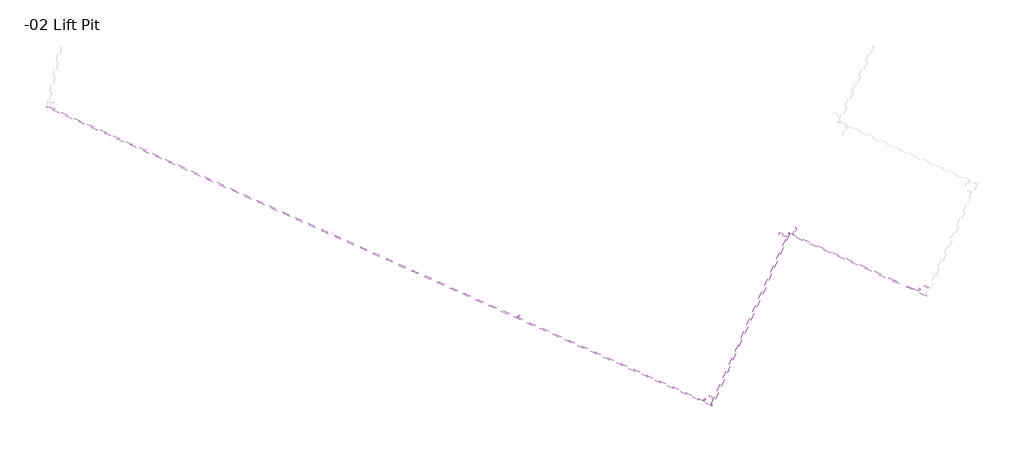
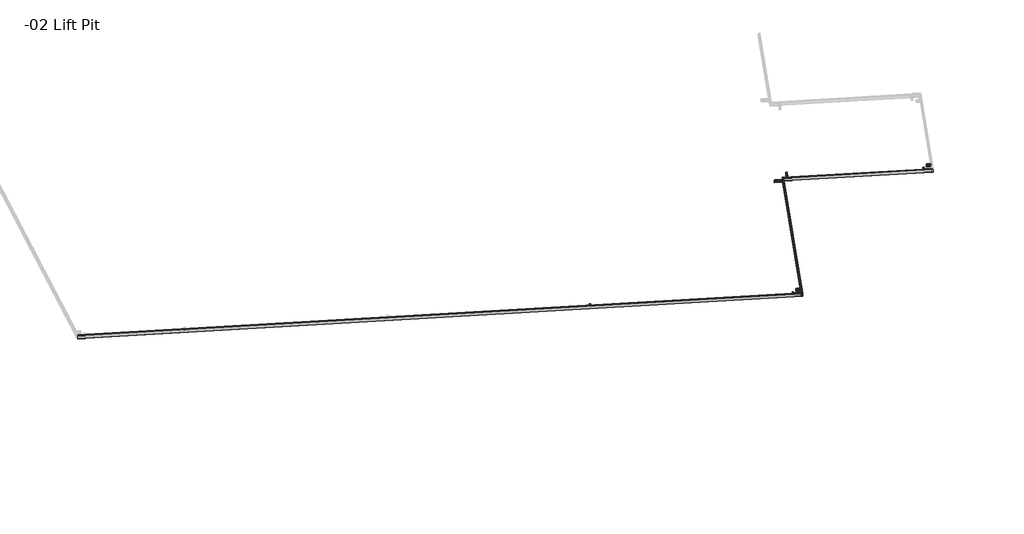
# One storey, part 2 of 3: 10 beams.
"""IFC4 building model written with IfcOpenShell, lengths in millimetres."""

from ifc_helpers import new_model, si_unit, frame, origin, place, context, project, spatial, polyline, ellipse_curve, transform, mapped, element, save
from ifc_brep_helpers import plane_surface, cylinder_surface, revolved_surface, advanced_brep
from components import hss_hollow_structural_section_hss3x2x1_8_9bae5ac0, hss_hollow_structural_section_hss3x2x1_8_4448584e, hss_hollow_structural_section_hss3x2x1_8_ec86c395, hss_hollow_structural_section_hss3x2x1_8_a59be2b4, hss_hollow_structural_section_hss3x2x1_8_24952963

model = new_model("IFC4")

# Units and contexts
model_context = context("Model", 3, world=origin())
ifc_project = project(units=[si_unit("LENGTHUNIT", "METRE", prefix="MILLI")], contexts=[model_context])

# Site, building, storey
site = spatial("IfcSite", under=ifc_project)
building = spatial("IfcBuilding", under=site)
storey = spatial("IfcBuildingStorey", under=building, Name="-02 Lift Pit", Elevation=-2133.6)

# Beams
placement = place(None, origin())
hss_hollow_structural_section_hss3x2x1_8_shape = hss_hollow_structural_section_hss3x2x1_8_9bae5ac0(model_context)
element("IfcBeam", 1, ObjectType="HSS-Hollow Structural Section : HSS3X2X1/8", at=placement, inside=storey, context=model_context, shape_type="MappedRepresentation", body=[
    mapped(hss_hollow_structural_section_hss3x2x1_8_shape, transform((57874.4831972, -20293.602729, 16256.4818369), x_axis=(0.9121951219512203, -0.40975609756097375, 0.0), y_axis=(0.4091945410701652, 0.9109449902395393, 0.052335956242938), z_axis=(-0.021444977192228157, -0.047740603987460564, 0.9986295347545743))),
])
element("IfcBeam", 2, ObjectType="HSS-Hollow Structural Section : HSS3X2X1/8", at=placement, inside=storey, context=model_context, shape_type="MappedRepresentation", body=[
    mapped(hss_hollow_structural_section_hss3x2x1_8_shape, transform((50488.6588069, -24090.2832168, 15916.3710717), x_axis=(0.9121951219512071, -0.4097560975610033, 0.0), y_axis=(0.4091945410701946, 0.910944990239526, 0.052335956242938), z_axis=(-0.021444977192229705, -0.04774060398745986, 0.9986295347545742))),
])
hss_hollow_structural_section_hss3x2x1_8_2_shape = hss_hollow_structural_section_hss3x2x1_8_4448584e(model_context)
element("IfcBeam", 3, ObjectType="HSS-Hollow Structural Section : HSS3X2X1/8", at=placement, inside=storey, context=model_context, shape_type="MappedRepresentation", body=[
    mapped(hss_hollow_structural_section_hss3x2x1_8_2_shape, transform((52986.4238112, -18529.7825525, 16235.8350597), x_axis=(0.9121951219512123, -0.4097560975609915, 0.0), y_axis=(0.4091945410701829, 0.9109449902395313, 0.052335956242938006), z_axis=(-0.021444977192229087, -0.04774060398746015, 0.9986295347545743))),
])
hss_hollow_structural_section_hss3x2x1_8_3_shape = hss_hollow_structural_section_hss3x2x1_8_ec86c395(model_context)
element("IfcBeam", 4, ObjectType="HSS-Hollow Structural Section : HSS3X2X1/8", at=placement, inside=storey, context=model_context, shape_type="MappedRepresentation", body=[
    mapped(hss_hollow_structural_section_hss3x2x1_8_3_shape, transform((57680.7339429, -20352.9969021, 16249.4817815), x_axis=(-0.40919454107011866, -0.9109449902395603, -0.052335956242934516), y_axis=(0.9121951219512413, -0.4097560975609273, 0.0), z_axis=(-0.021444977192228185, -0.047740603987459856, 0.9986295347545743))),
])
hss_hollow_structural_section_hss3x2x1_8_4_shape = hss_hollow_structural_section_hss3x2x1_8_a59be2b4(model_context)
element("IfcBeam", 5, ObjectType="HSS-Hollow Structural Section : HSS3X2X1/8", at=placement, inside=storey, context=model_context, shape_type="MappedRepresentation", body=[
    mapped(hss_hollow_structural_section_hss3x2x1_8_4_shape, transform((53373.5930685, -18411.7271821, 16249.7930592), x_axis=(0.40919454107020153, 0.9109449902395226, 0.05233595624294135), y_axis=(-0.9121951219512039, 0.4097560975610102, 0.0), z_axis=(-0.0214449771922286, -0.04774060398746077, 0.9986295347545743))),
])
hss_hollow_structural_section_hss3x2x1_8_5_shape = hss_hollow_structural_section_hss3x2x1_8_24952963(model_context)
element("IfcBeam", 6, ObjectType="HSS-Hollow Structural Section : HSS3X2X1/8", at=placement, inside=storey, context=model_context, shape_type="MappedRepresentation", body=[
    mapped(hss_hollow_structural_section_hss3x2x1_8_5_shape, transform((50298.5513886, -24141.5699695, 15909.8368069), x_axis=(-0.4091945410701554, -0.9109449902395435, -0.052335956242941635), y_axis=(0.9121951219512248, -0.40975609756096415, 0.0), z_axis=(-0.021444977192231, -0.047740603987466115, 0.9986295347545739))),
])
element("IfcBeam", 7, ObjectType="HSS-Hollow Structural Section : HSS3X2X1/8", at=placement, inside=storey, context=model_context, shape_type="MappedRepresentation", body=[
    mapped(hss_hollow_structural_section_hss3x2x1_8_5_shape, transform((43903.6987057, -21269.0158231, 15909.8368069), x_axis=(-0.40919454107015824, -0.9109449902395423, -0.05233595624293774), y_axis=(0.9121951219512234, -0.4097560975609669, 0.0), z_axis=(-0.021444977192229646, -0.04774060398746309, 0.998629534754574))),
])
element("IfcBeam", 8, ObjectType="HSS-Hollow Structural Section : HSS5X2X1/8", at=placement, inside=storey, context=model_context, shape_type="AdvancedBrep", body=[
    advanced_brep(
    [(53186.4051338, -18504.1214652, 16279.5085835), (53189.4955866, -18511.6227668, 16273.315454), (57916.1258305, -20634.8149619, 16273.315454), (57913.0353778, -20627.3136604, 16279.5085835), (53166.780868, -18452.5951047, 16281.5504394), (57893.4111119, -20575.7872998, 16281.5504394), (53163.9431571, -18444.5311515, 16275.9741206), (57890.573401, -20567.7233466, 16275.9741206), (53166.4139273, -18439.0307465, 16160.9176179), (57893.0441712, -20562.2229416, 16160.9176179), (53169.5043801, -18446.532048, 16154.7244885), (57896.134624, -20569.7242431, 16154.7244885), (53189.128646, -18498.0584085, 16152.6826325), (57915.7588899, -20621.2506036, 16152.6826325), (53191.9663568, -18506.1223617, 16158.2589513), (57918.5966007, -20629.3145568, 16158.2589513), (53186.4683193, -18503.9808023, 16276.5662214), (53166.8440535, -18452.4544418, 16278.6080773), (57893.4742974, -20575.6466369, 16278.6080773), (57913.0985632, -20627.1729974, 16276.5662214), (53188.0135457, -18507.7314531, 16273.4696567), (57914.6437896, -20630.9236482, 16273.4696567), (53190.4843159, -18502.231048, 16158.413154), (57917.1145598, -20625.4232432, 16158.413154), (53189.0654605, -18498.1990714, 16155.6249946), (57915.6957044, -20621.3912666, 16155.6249946), (53169.4411946, -18446.6727109, 16157.6668505), (57896.0714385, -20569.864906, 16157.6668505), (53167.8959682, -18442.9220602, 16160.7634153), (57894.5262121, -20566.1142553, 16160.7634153), (53165.425198, -18448.4224652, 16275.8199179), (57892.0554419, -20571.6146603, 16275.8199179)],
    [
        (0, 1, ellipse_curve(frame((53186.5315048, -18503.8401394, 16273.6238593), z_axis=(0.9343635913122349, 0.354394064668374, 0.037007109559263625), x_axis=(-0.3556751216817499, 0.9338766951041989, 0.03700710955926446)), 8.3336777, 5.8928)),
        (1, 2),
        (2, 3, ellipse_curve(frame((57913.1617487, -20627.0323345, 16273.6238593), z_axis=(-0.9343635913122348, -0.354394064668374, -0.03700710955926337), x_axis=(-0.3556751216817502, 0.9338766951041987, 0.03700710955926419)), 8.3336777, 5.8928)),
        (3, 0),
        (4, 0),
        (3, 5),
        (5, 4),
        (6, 4, ellipse_curve(frame((53166.9072389, -18452.3137789, 16275.6657153), z_axis=(0.9343635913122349, 0.354394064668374, 0.037007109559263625), x_axis=(-0.3556751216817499, 0.9338766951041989, 0.03700710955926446)), 8.3336777, 5.8928)),
        (5, 7, ellipse_curve(frame((57893.5374829, -20575.505974, 16275.6657153), z_axis=(-0.9343635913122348, -0.354394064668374, -0.03700710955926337), x_axis=(-0.3556751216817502, 0.9338766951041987, 0.03700710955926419)), 8.3336777, 5.8928)),
        (7, 6),
        (8, 6),
        (7, 9),
        (9, 8),
        (10, 8, ellipse_curve(frame((53169.3780091, -18446.8133738, 16160.6092126), z_axis=(0.9343635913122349, 0.354394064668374, 0.037007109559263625), x_axis=(-0.3556751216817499, 0.9338766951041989, 0.03700710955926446)), 8.3336777, 5.8928)),
        (9, 11, ellipse_curve(frame((57896.008253, -20570.005569, 16160.6092126), z_axis=(-0.9343635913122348, -0.354394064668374, -0.03700710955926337), x_axis=(-0.3556751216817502, 0.9338766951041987, 0.03700710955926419)), 8.3336777, 5.8928)),
        (11, 10),
        (12, 10),
        (11, 13),
        (13, 12),
        (14, 12, ellipse_curve(frame((53189.002275, -18498.3397344, 16158.5673567), z_axis=(0.9343635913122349, 0.354394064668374, 0.037007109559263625), x_axis=(-0.3556751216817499, 0.9338766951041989, 0.03700710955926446)), 8.3336777, 5.8928)),
        (13, 15, ellipse_curve(frame((57915.6325189, -20621.5319295, 16158.5673567), z_axis=(-0.9343635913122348, -0.354394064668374, -0.03700710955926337), x_axis=(-0.3556751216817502, 0.9338766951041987, 0.03700710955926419)), 8.3336777, 5.8928)),
        (15, 14),
        (1, 14),
        (15, 2),
        (16, 17),
        (17, 18),
        (18, 19),
        (19, 16),
        (20, 16, ellipse_curve(frame((53186.5315048, -18503.8401394, 16273.6238593), z_axis=(-0.9343635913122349, -0.354394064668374, -0.037007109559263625), x_axis=(0.3556751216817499, -0.9338766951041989, -0.03700710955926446)), 4.1668388, 2.9464)),
        (19, 21, ellipse_curve(frame((57913.1617487, -20627.0323345, 16273.6238593), z_axis=(0.9343635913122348, 0.354394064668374, 0.03700710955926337), x_axis=(0.3556751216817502, -0.9338766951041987, -0.03700710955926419)), 4.1668388, 2.9464)),
        (21, 20),
        (22, 20),
        (21, 23),
        (23, 22),
        (24, 22, ellipse_curve(frame((53189.002275, -18498.3397344, 16158.5673567), z_axis=(-0.9343635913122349, -0.354394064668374, -0.037007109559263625), x_axis=(0.3556751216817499, -0.9338766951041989, -0.03700710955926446)), 4.1668388, 2.9464)),
        (23, 25, ellipse_curve(frame((57915.6325189, -20621.5319295, 16158.5673567), z_axis=(0.9343635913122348, 0.354394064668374, 0.03700710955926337), x_axis=(0.3556751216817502, -0.9338766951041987, -0.03700710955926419)), 4.1668388, 2.9464)),
        (25, 24),
        (26, 24),
        (25, 27),
        (27, 26),
        (28, 26, ellipse_curve(frame((53169.3780091, -18446.8133738, 16160.6092126), z_axis=(-0.9343635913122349, -0.354394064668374, -0.037007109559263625), x_axis=(0.3556751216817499, -0.9338766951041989, -0.03700710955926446)), 4.1668388, 2.9464)),
        (27, 29, ellipse_curve(frame((57896.008253, -20570.005569, 16160.6092126), z_axis=(0.9343635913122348, 0.354394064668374, 0.03700710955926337), x_axis=(0.3556751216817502, -0.9338766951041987, -0.03700710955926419)), 4.1668388, 2.9464)),
        (29, 28),
        (30, 28),
        (29, 31),
        (31, 30),
        (17, 30, ellipse_curve(frame((53166.9072389, -18452.3137789, 16275.6657153), z_axis=(-0.9343635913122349, -0.354394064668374, -0.037007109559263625), x_axis=(0.3556751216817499, -0.9338766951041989, -0.03700710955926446)), 4.1668388, 2.9464)),
        (31, 18, ellipse_curve(frame((57893.5374829, -20575.505974, 16275.6657153), z_axis=(0.9343635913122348, 0.354394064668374, 0.03700710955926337), x_axis=(0.3556751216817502, -0.9338766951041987, -0.03700710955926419)), 4.1668388, 2.9464)),
    ],
    [
        cylinder_surface(frame((53168.7371321, -18495.8469453, 16273.6238593), z_axis=(-0.9121951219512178, 0.4097560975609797, 0.0), x_axis=(0.4091945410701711, 0.9109449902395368, 0.052335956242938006)), 5.8928),
        plane_surface(frame((53168.6107612, -18496.1282711, 16279.5085835), z_axis=(-0.021444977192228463, -0.04774060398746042, 0.9986295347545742), x_axis=(0.9121951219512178, -0.4097560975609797, 0.0))),
        cylinder_surface(frame((53184.7016116, -18460.306973, 16275.6657153), z_axis=(-0.9121951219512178, 0.4097560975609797, 0.0), x_axis=(0.4091945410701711, 0.9109449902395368, 0.052335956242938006)), 5.8928),
        plane_surface(frame((53187.1129132, -18454.9389564, 16275.9741206), z_axis=(0.4091945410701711, 0.9109449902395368, 0.052335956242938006), x_axis=(0.9121951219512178, -0.4097560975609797, 0.0))),
        cylinder_surface(frame((53187.1723818, -18454.806568, 16160.6092126), z_axis=(-0.9121951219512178, 0.4097560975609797, 0.0), x_axis=(0.4091945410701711, 0.9109449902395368, 0.052335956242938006)), 5.8928),
        plane_surface(frame((53187.2987528, -18454.5252422, 16154.7244885), z_axis=(0.021444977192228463, 0.04774060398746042, -0.9986295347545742), x_axis=(0.9121951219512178, -0.4097560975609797, 0.0))),
        cylinder_surface(frame((53171.2079023, -18490.3465402, 16158.5673567), z_axis=(-0.9121951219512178, 0.4097560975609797, 0.0), x_axis=(0.4091945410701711, 0.9109449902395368, 0.052335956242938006)), 5.8928),
        plane_surface(frame((53168.7966007, -18495.7145568, 16158.2589513), z_axis=(-0.4091945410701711, -0.9109449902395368, -0.052335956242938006), x_axis=(0.9121951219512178, -0.4097560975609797, 0.0))),
        plane_surface(frame((53184.6384262, -18460.4476359, 16278.6080773), z_axis=(0.021444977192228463, 0.04774060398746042, -0.9986295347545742), x_axis=(0.9121951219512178, -0.4097560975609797, 0.0))),
        revolved_surface(polyline([(57917.05509117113, -20625.55563160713, 16273.778061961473), (53185.04946389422, -18499.948825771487, 16273.778061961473)]), (53168.7371321, -18495.8469453, 16273.6238593), (0.9121951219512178, -0.4097560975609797, 0.0)),
        plane_surface(frame((53167.5314813, -18498.5309536, 16273.4696567), z_axis=(0.4091945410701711, 0.9109449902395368, 0.052335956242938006), x_axis=(0.9121951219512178, -0.4097560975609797, 0.0))),
        revolved_surface(polyline([(57919.52586140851, -20620.055226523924, 16158.721559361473), (53187.520234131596, -18494.44842068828, 16158.721559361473)]), (53171.2079023, -18490.3465402, 16158.5673567), (0.9121951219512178, -0.4097560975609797, 0.0)),
        plane_surface(frame((53171.2710878, -18490.2058773, 16155.6249946), z_axis=(-0.021444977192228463, -0.04774060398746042, 0.9986295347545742), x_axis=(0.9121951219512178, -0.4097560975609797, 0.0))),
        revolved_surface(polyline([(57899.9015954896, -20568.528866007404, 16160.763415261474), (53167.89596819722, -18442.922060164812, 16160.763415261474)]), (53187.1723818, -18454.806568, 16160.6092126), (0.9121951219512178, -0.4097560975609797, 0.0)),
        plane_surface(frame((53188.3780326, -18452.1225597, 16160.7634153), z_axis=(-0.4091945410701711, -0.9109449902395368, -0.052335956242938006), x_axis=(0.9121951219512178, -0.4097560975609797, 0.0))),
        revolved_surface(polyline([(57897.43082537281, -20574.029271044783, 16275.819917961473), (53165.42519801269, -18448.42246517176, 16275.819917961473)]), (53184.7016116, -18460.306973, 16275.6657153), (0.9121951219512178, -0.4097560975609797, 0.0)),
        plane_surface(frame((57888.8129228, -20571.6425065, 16357.9544153), z_axis=(0.934363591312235, 0.35439406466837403, 0.037007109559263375), x_axis=(0.3563210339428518, -0.9293105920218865, -0.09704197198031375))),
        plane_surface(frame((53187.7351084, -18515.5419266, 16355.2957487), z_axis=(-0.9343635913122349, -0.354394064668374, -0.037007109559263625), x_axis=(0.35632103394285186, -0.9293105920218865, -0.09704197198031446))),
    ],
    [
        (0, [[1, 2, 3, 4]]),
        (1, [[5, -4, 6, 7]]),
        (2, [[8, -7, 9, 10]]),
        (3, [[11, -10, 12, 13]]),
        (4, [[14, -13, 15, 16]]),
        (5, [[17, -16, 18, 19]]),
        (6, [[20, -19, 21, 22]]),
        (7, [[23, -22, 24, -2]]),
        (8, [[25, 26, 27, 28]]),
        (9, [[29, -28, 30, 31]]),
        (10, [[32, -31, 33, 34]]),
        (11, [[35, -34, 36, 37]]),
        (12, [[38, -37, 39, 40]]),
        (13, [[41, -40, 42, 43]]),
        (14, [[44, -43, 45, 46]]),
        (15, [[47, -46, 48, -26]]),
        (16, [[-24, -21, -18, -15, -12, -9, -6, -3], [-48, -45, -42, -39, -36, -33, -30, -27]]),
        (17, [[-1, -5, -8, -11, -14, -17, -20, -23], [-25, -29, -32, -35, -38, -41, -44, -47]]),
    ],
),
])
element("IfcBeam", 9, ObjectType="HSS-Hollow Structural Section : HSS5X2X1/8", at=placement, inside=storey, context=model_context, shape_type="AdvancedBrep", body=[
    advanced_brep(
    [(50534.4946594, -24407.7793072, 15940.3293994), (50537.5851122, -24415.2806087, 15934.13627), (53189.4955866, -18511.6227668, 16273.315454), (53186.4051338, -18504.1214652, 16279.5085835), (50514.8703935, -24356.2529467, 15942.3712554), (53166.780868, -18452.5951047, 16281.5504394), (50512.0326827, -24348.1889935, 15936.7949366), (53163.9431571, -18444.5311515, 16275.9741206), (50514.5034528, -24342.6885884, 15821.7384339), (53166.4139273, -18439.0307465, 16160.9176179), (50517.5939056, -24350.1898899, 15815.5453044), (53169.5043801, -18446.532048, 16154.7244885), (50537.2181715, -24401.7162505, 15813.5034485), (53189.128646, -18498.0584085, 16152.6826325), (50540.0558824, -24409.7802037, 15819.0797673), (53191.9663568, -18506.1223617, 16158.2589513), (50534.5578449, -24407.6386443, 15937.3870374), (50514.933579, -24356.1122837, 15939.4288933), (53166.8440535, -18452.4544418, 16278.6080773), (53186.4683193, -18503.9808023, 16276.5662214), (50536.1030713, -24411.389295, 15934.2904726), (53188.0135457, -18507.7314531, 16273.4696567), (50538.5738414, -24405.88889, 15819.23397), (53190.4843159, -18502.231048, 16158.413154), (50537.154986, -24401.8569134, 15816.4458106), (53189.0654605, -18498.1990714, 16155.6249946), (50517.5307202, -24350.3305529, 15818.4876665), (53169.4411946, -18446.6727109, 16157.6668505), (50515.9854938, -24346.5799021, 15821.5842312), (53167.8959682, -18442.9220602, 16160.7634153), (50513.5147236, -24352.0803071, 15936.6407339), (53165.425198, -18448.4224652, 16275.8199179)],
    [
        (0, 1, ellipse_curve(frame((50534.6210304, -24407.4979813, 15934.4446753), z_axis=(0.9343635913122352, 0.354394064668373, 0.0370071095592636), x_axis=(0.3556751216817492, -0.9338766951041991, -0.037007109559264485)), 8.3336777, 5.8928)),
        (1, 2),
        (2, 3, ellipse_curve(frame((53186.5315048, -18503.8401394, 16273.6238593), z_axis=(-0.9343635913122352, -0.354394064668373, -0.0370071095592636), x_axis=(0.3556751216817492, -0.9338766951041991, -0.037007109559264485)), 8.3336777, 5.8928)),
        (3, 0),
        (4, 0),
        (3, 5),
        (5, 4),
        (6, 4, ellipse_curve(frame((50514.9967645, -24355.9716208, 15936.4865312), z_axis=(0.9343635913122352, 0.354394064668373, 0.0370071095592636), x_axis=(0.3556751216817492, -0.9338766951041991, -0.037007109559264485)), 8.3336777, 5.8928)),
        (5, 7, ellipse_curve(frame((53166.9072389, -18452.3137789, 16275.6657153), z_axis=(-0.9343635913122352, -0.354394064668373, -0.0370071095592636), x_axis=(0.3556751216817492, -0.9338766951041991, -0.037007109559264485)), 8.3336777, 5.8928)),
        (7, 6),
        (8, 6),
        (7, 9),
        (9, 8),
        (10, 8, ellipse_curve(frame((50517.4675347, -24350.4712158, 15821.4300286), z_axis=(0.9343635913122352, 0.354394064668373, 0.0370071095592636), x_axis=(0.3556751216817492, -0.9338766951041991, -0.037007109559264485)), 8.3336777, 5.8928)),
        (9, 11, ellipse_curve(frame((53169.3780091, -18446.8133738, 16160.6092126), z_axis=(-0.9343635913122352, -0.354394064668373, -0.0370071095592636), x_axis=(0.3556751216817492, -0.9338766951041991, -0.037007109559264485)), 8.3336777, 5.8928)),
        (11, 10),
        (12, 10),
        (11, 13),
        (13, 12),
        (14, 12, ellipse_curve(frame((50537.0918005, -24401.9975763, 15819.3881726), z_axis=(0.9343635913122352, 0.354394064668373, 0.0370071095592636), x_axis=(0.3556751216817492, -0.9338766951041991, -0.037007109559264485)), 8.3336777, 5.8928)),
        (13, 15, ellipse_curve(frame((53189.002275, -18498.3397344, 16158.5673567), z_axis=(-0.9343635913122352, -0.354394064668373, -0.0370071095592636), x_axis=(0.3556751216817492, -0.9338766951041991, -0.037007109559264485)), 8.3336777, 5.8928)),
        (15, 14),
        (1, 14),
        (15, 2),
        (16, 17),
        (17, 18),
        (18, 19),
        (19, 16),
        (20, 16, ellipse_curve(frame((50534.6210304, -24407.4979813, 15934.4446753), z_axis=(-0.9343635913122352, -0.354394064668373, -0.0370071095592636), x_axis=(-0.3556751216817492, 0.9338766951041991, 0.037007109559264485)), 4.1668388, 2.9464)),
        (19, 21, ellipse_curve(frame((53186.5315048, -18503.8401394, 16273.6238593), z_axis=(0.9343635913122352, 0.354394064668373, 0.0370071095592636), x_axis=(-0.3556751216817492, 0.9338766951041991, 0.037007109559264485)), 4.1668388, 2.9464)),
        (21, 20),
        (22, 20),
        (21, 23),
        (23, 22),
        (24, 22, ellipse_curve(frame((50537.0918005, -24401.9975763, 15819.3881726), z_axis=(-0.9343635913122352, -0.354394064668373, -0.0370071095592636), x_axis=(-0.3556751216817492, 0.9338766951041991, 0.037007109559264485)), 4.1668388, 2.9464)),
        (23, 25, ellipse_curve(frame((53189.002275, -18498.3397344, 16158.5673567), z_axis=(0.9343635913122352, 0.354394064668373, 0.0370071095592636), x_axis=(-0.3556751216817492, 0.9338766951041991, 0.037007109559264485)), 4.1668388, 2.9464)),
        (25, 24),
        (26, 24),
        (25, 27),
        (27, 26),
        (28, 26, ellipse_curve(frame((50517.4675347, -24350.4712158, 15821.4300286), z_axis=(-0.9343635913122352, -0.354394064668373, -0.0370071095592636), x_axis=(-0.3556751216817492, 0.9338766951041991, 0.037007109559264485)), 4.1668388, 2.9464)),
        (27, 29, ellipse_curve(frame((53169.3780091, -18446.8133738, 16160.6092126), z_axis=(0.9343635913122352, 0.354394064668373, 0.0370071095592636), x_axis=(-0.3556751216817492, 0.9338766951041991, 0.037007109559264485)), 4.1668388, 2.9464)),
        (29, 28),
        (30, 28),
        (29, 31),
        (31, 30),
        (17, 30, ellipse_curve(frame((50514.9967645, -24355.9716208, 15936.4865312), z_axis=(-0.9343635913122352, -0.354394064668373, -0.0370071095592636), x_axis=(-0.3556751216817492, 0.9338766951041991, 0.037007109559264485)), 4.1668388, 2.9464)),
        (31, 18, ellipse_curve(frame((53166.9072389, -18452.3137789, 16275.6657153), z_axis=(0.9343635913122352, 0.354394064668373, 0.0370071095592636), x_axis=(-0.3556751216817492, 0.9338766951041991, 0.037007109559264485)), 4.1668388, 2.9464)),
    ],
    [
        cylinder_surface(frame((50542.6032701, -24389.7279952, 15935.4656033), z_axis=(-0.40919454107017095, -0.9109449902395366, -0.05233595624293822), x_axis=(-0.9121951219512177, 0.4097560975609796, 0.0)), 5.8928),
        plane_surface(frame((50542.4768991, -24390.0093211, 15941.3503274), z_axis=(-0.02144497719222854, -0.04774060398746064, 0.9986295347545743), x_axis=(0.409194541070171, 0.9109449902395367, 0.05233595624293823))),
        cylinder_surface(frame((50507.0145247, -24373.7416069, 15935.4656033), z_axis=(-0.40919454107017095, -0.9109449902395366, -0.05233595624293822), x_axis=(-0.9121951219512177, 0.4097560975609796, 0.0)), 5.8928),
        plane_surface(frame((50501.6391413, -24371.3269962, 15935.4656033), z_axis=(-0.9121951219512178, 0.40975609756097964, 0.0), x_axis=(0.409194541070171, 0.9109449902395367, 0.05233595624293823))),
        cylinder_surface(frame((50509.4852949, -24368.2412019, 15820.4091006), z_axis=(-0.40919454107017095, -0.9109449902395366, -0.05233595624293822), x_axis=(-0.9121951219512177, 0.4097560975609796, 0.0)), 5.8928),
        plane_surface(frame((50509.6116659, -24367.9598761, 15814.5243765), z_axis=(0.02144497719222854, 0.04774060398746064, -0.9986295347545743), x_axis=(0.409194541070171, 0.9109449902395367, 0.05233595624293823))),
        cylinder_surface(frame((50545.0740403, -24384.2275902, 15820.4091006), z_axis=(-0.40919454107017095, -0.9109449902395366, -0.05233595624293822), x_axis=(-0.9121951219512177, 0.4097560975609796, 0.0)), 5.8928),
        plane_surface(frame((50550.4494237, -24386.6422009, 15820.4091006), z_axis=(0.9121951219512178, -0.40975609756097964, 0.0), x_axis=(0.409194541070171, 0.9109449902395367, 0.05233595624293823))),
        plane_surface(frame((50506.9513393, -24373.8822699, 15938.4079653), z_axis=(0.02144497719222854, 0.04774060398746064, -0.9986295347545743), x_axis=(0.409194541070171, 0.9109449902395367, 0.05233595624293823))),
        revolved_surface(polyline([(53185.0494638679, -18499.948825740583, 16273.778062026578), (50530.72768784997, -24408.974684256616, 15934.290472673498)]), (50542.6032701, -24389.7279952, 15935.4656033), (0.40919454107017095, 0.9109449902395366, 0.05233595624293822)),
        plane_surface(frame((50545.2909618, -24390.9353006, 15935.4656033), z_axis=(-0.9121951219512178, 0.40975609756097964, 0.0), x_axis=(0.409194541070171, 0.9109449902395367, 0.05233595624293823))),
        revolved_surface(polyline([(53187.52023407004, -18494.448420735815, 16158.721559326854), (50533.19845803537, -24403.474279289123, 15819.233969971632)]), (50545.0740403, -24384.2275902, 15820.4091006), (0.40919454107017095, 0.9109449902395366, 0.05233595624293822)),
        plane_surface(frame((50545.1372258, -24384.0869273, 15817.4667385), z_axis=(-0.02144497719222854, -0.04774060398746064, 0.9986295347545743), x_axis=(0.409194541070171, 0.9109449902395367, 0.05233595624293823))),
        revolved_surface(polyline([(53167.89596819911, -18442.922060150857, 16160.763415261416), (50513.57419216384, -24351.9479187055, 15821.275825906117)]), (50509.4852949, -24368.2412019, 15820.4091006), (0.40919454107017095, 0.9109449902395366, 0.05233595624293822)),
        plane_surface(frame((50506.7976032, -24367.0338965, 15820.4091006), z_axis=(0.9121951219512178, -0.40975609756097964, 0.0), x_axis=(0.409194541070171, 0.9109449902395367, 0.05233595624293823))),
        revolved_surface(polyline([(53165.425197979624, -18448.422465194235, 16275.819917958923), (50511.10342196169, -24357.44832371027, 15936.332328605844)]), (50507.0145247, -24373.7416069, 15935.4656033), (0.40919454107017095, 0.9109449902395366, 0.05233595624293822)),
        plane_surface(frame((53187.7351084, -18515.5419266, 16355.2957487), z_axis=(0.9343635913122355, 0.35439406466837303, 0.037007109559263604), x_axis=(0.35632103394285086, -0.9293105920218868, -0.09704197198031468))),
        plane_surface(frame((50510.2722044, -24352.1081533, 16018.7752312), z_axis=(-0.9343635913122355, -0.35439406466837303, -0.037007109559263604), x_axis=(0.35632103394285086, -0.9293105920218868, -0.09704197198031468))),
    ],
    [
        (0, [[1, 2, 3, 4]]),
        (1, [[5, -4, 6, 7]]),
        (2, [[8, -7, 9, 10]]),
        (3, [[11, -10, 12, 13]]),
        (4, [[14, -13, 15, 16]]),
        (5, [[17, -16, 18, 19]]),
        (6, [[20, -19, 21, 22]]),
        (7, [[23, -22, 24, -2]]),
        (8, [[25, 26, 27, 28]]),
        (9, [[29, -28, 30, 31]]),
        (10, [[32, -31, 33, 34]]),
        (11, [[35, -34, 36, 37]]),
        (12, [[38, -37, 39, 40]]),
        (13, [[41, -40, 42, 43]]),
        (14, [[44, -43, 45, 46]]),
        (15, [[47, -46, 48, -26]]),
        (16, [[-24, -21, -18, -15, -12, -9, -6, -3], [-48, -45, -42, -39, -36, -33, -30, -27]]),
        (17, [[-1, -5, -8, -11, -14, -17, -20, -23], [-25, -29, -32, -35, -38, -41, -44, -47]]),
    ],
),
])
element("IfcBeam", 10, ObjectType="HSS-Hollow Structural Section : HSS5X2X1/8", at=placement, inside=storey, context=model_context, shape_type="AdvancedBrep", body=[
    advanced_brep(
    [(27653.9377637, -14129.882092, 15940.3293994), (27647.3085375, -14133.0173345, 15934.13627), (50537.5851122, -24415.2806087, 15934.13627), (50534.4946594, -24407.7793072, 15940.3293994), (27698.6644754, -14107.262053, 15942.3712554), (50514.8703935, -24356.2529467, 15942.3712554), (27705.5464435, -14103.5641587, 15936.7949366), (50512.0326827, -24348.1889935, 15936.7949366), (27708.0172137, -14098.0637537, 15821.7384339), (50514.5034528, -24342.6885884, 15821.7384339), (27701.3879876, -14101.1989963, 15815.5453044), (50517.5939056, -24350.1898899, 15815.5453044), (27656.6612758, -14123.8190353, 15813.5034485), (50537.2181715, -24401.7162505, 15813.5034485), (27649.7793077, -14127.5169295, 15819.0797673), (50540.0558824, -24409.7802037, 15819.0797673), (27654.0009491, -14129.7414291, 15937.3870374), (27698.7276609, -14107.1213901, 15939.4288933), (50514.933579, -24356.1122837, 15939.4288933), (50534.5578449, -24407.6386443, 15937.3870374), (27650.6863361, -14131.3090503, 15934.2904726), (50536.1030713, -24411.389295, 15934.2904726), (27653.1571062, -14125.8086453, 15819.23397), (50538.5738414, -24405.88889, 15819.23397), (27656.5980903, -14123.9596982, 15816.4458106), (50537.154986, -24401.8569134, 15816.4458106), (27701.3248021, -14101.3396592, 15818.4876665), (50517.5307202, -24350.3305529, 15818.4876665), (27704.6394151, -14099.7720379, 15821.5842312), (50515.9854938, -24346.5799021, 15821.5842312), (27702.168645, -14105.2724429, 15936.6407339), (50513.5147236, -24352.0803071, 15936.6407339)],
    [
        (0, 1, ellipse_curve(frame((27654.0641346, -14129.6007661, 15934.4446753), z_axis=(0.45225713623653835, -0.8912807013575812, -0.032896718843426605), x_axis=(-0.8916297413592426, -0.450931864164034, -0.04070452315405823)), 7.5766843, 5.8928)),
        (1, 2),
        (2, 3, ellipse_curve(frame((50534.6210304, -24407.4979813, 15934.4446753), z_axis=(-0.9343635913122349, -0.354394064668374, -0.037007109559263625), x_axis=(-0.3556751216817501, 0.9338766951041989, 0.03700710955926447)), 8.3336777, 5.8928)),
        (3, 0),
        (4, 0),
        (3, 5),
        (5, 4),
        (6, 4, ellipse_curve(frame((27698.7908464, -14106.9807271, 15936.4865312), z_axis=(0.45225713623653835, -0.8912807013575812, -0.032896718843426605), x_axis=(-0.8916297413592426, -0.450931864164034, -0.04070452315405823)), 7.5766843, 5.8928)),
        (5, 7, ellipse_curve(frame((50514.9967645, -24355.9716208, 15936.4865312), z_axis=(-0.9343635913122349, -0.354394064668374, -0.037007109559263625), x_axis=(-0.3556751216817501, 0.9338766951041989, 0.03700710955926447)), 8.3336777, 5.8928)),
        (7, 6),
        (8, 6),
        (7, 9),
        (9, 8),
        (10, 8, ellipse_curve(frame((27701.2616166, -14101.4803221, 15821.4300286), z_axis=(0.45225713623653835, -0.8912807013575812, -0.032896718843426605), x_axis=(-0.8916297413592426, -0.450931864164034, -0.04070452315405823)), 7.5766843, 5.8928)),
        (9, 11, ellipse_curve(frame((50517.4675347, -24350.4712158, 15821.4300286), z_axis=(-0.9343635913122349, -0.354394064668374, -0.037007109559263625), x_axis=(-0.3556751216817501, 0.9338766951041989, 0.03700710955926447)), 8.3336777, 5.8928)),
        (11, 10),
        (12, 10),
        (11, 13),
        (13, 12),
        (14, 12, ellipse_curve(frame((27656.5349048, -14124.1003611, 15819.3881726), z_axis=(0.45225713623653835, -0.8912807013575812, -0.032896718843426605), x_axis=(-0.8916297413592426, -0.450931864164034, -0.04070452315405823)), 7.5766843, 5.8928)),
        (13, 15, ellipse_curve(frame((50537.0918005, -24401.9975763, 15819.3881726), z_axis=(-0.9343635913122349, -0.354394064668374, -0.037007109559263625), x_axis=(-0.3556751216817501, 0.9338766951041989, 0.03700710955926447)), 8.3336777, 5.8928)),
        (15, 14),
        (1, 14),
        (15, 2),
        (16, 17),
        (17, 18),
        (18, 19),
        (19, 16),
        (20, 16, ellipse_curve(frame((27654.0641346, -14129.6007661, 15934.4446753), z_axis=(-0.45225713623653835, 0.8912807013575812, 0.032896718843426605), x_axis=(0.8916297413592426, 0.450931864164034, 0.04070452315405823)), 3.7883422, 2.9464)),
        (19, 21, ellipse_curve(frame((50534.6210304, -24407.4979813, 15934.4446753), z_axis=(0.9343635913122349, 0.354394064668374, 0.037007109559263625), x_axis=(0.3556751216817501, -0.9338766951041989, -0.03700710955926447)), 4.1668388, 2.9464)),
        (21, 20),
        (22, 20),
        (21, 23),
        (23, 22),
        (24, 22, ellipse_curve(frame((27656.5349048, -14124.1003611, 15819.3881726), z_axis=(-0.45225713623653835, 0.8912807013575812, 0.032896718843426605), x_axis=(0.8916297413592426, 0.450931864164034, 0.04070452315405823)), 3.7883422, 2.9464)),
        (23, 25, ellipse_curve(frame((50537.0918005, -24401.9975763, 15819.3881726), z_axis=(0.9343635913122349, 0.354394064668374, 0.037007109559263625), x_axis=(0.3556751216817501, -0.9338766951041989, -0.03700710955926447)), 4.1668388, 2.9464)),
        (25, 24),
        (26, 24),
        (25, 27),
        (27, 26),
        (28, 26, ellipse_curve(frame((27701.2616166, -14101.4803221, 15821.4300286), z_axis=(-0.45225713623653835, 0.8912807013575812, 0.032896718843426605), x_axis=(0.8916297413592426, 0.450931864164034, 0.04070452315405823)), 3.7883422, 2.9464)),
        (27, 29, ellipse_curve(frame((50517.4675347, -24350.4712158, 15821.4300286), z_axis=(0.9343635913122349, 0.354394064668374, 0.037007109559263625), x_axis=(0.3556751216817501, -0.9338766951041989, -0.03700710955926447)), 4.1668388, 2.9464)),
        (29, 28),
        (30, 28),
        (29, 31),
        (31, 30),
        (17, 30, ellipse_curve(frame((27698.7908464, -14106.9807271, 15936.4865312), z_axis=(-0.45225713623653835, 0.8912807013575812, 0.032896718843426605), x_axis=(0.8916297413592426, 0.450931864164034, 0.04070452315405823)), 3.7883422, 2.9464)),
        (31, 18, ellipse_curve(frame((50514.9967645, -24355.9716208, 15936.4865312), z_axis=(0.9343635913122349, 0.354394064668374, 0.037007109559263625), x_axis=(0.3556751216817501, -0.9338766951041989, -0.03700710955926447)), 4.1668388, 2.9464)),
    ],
    [
        cylinder_surface(frame((27668.4452508, -14136.0607328, 15934.4446753), z_axis=(-0.9121951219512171, 0.40975609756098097, 0.0), x_axis=(0.40919454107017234, 0.910944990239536, 0.052335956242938)), 5.8928),
        plane_surface(frame((27668.3188798, -14136.3420586, 15940.3293994), z_axis=(-0.021444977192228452, -0.047740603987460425, 0.9986295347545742), x_axis=(0.9121951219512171, -0.40975609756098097, 0.0))),
        cylinder_surface(frame((27684.4097303, -14100.5207605, 15936.4865312), z_axis=(-0.9121951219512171, 0.40975609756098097, 0.0), x_axis=(0.40919454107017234, 0.910944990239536, 0.052335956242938)), 5.8928),
        plane_surface(frame((27686.8210319, -14095.1527439, 15936.7949366), z_axis=(0.4091945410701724, 0.9109449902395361, 0.052335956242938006), x_axis=(0.9121951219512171, -0.40975609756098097, 0.0))),
        cylinder_surface(frame((27686.8805004, -14095.0203555, 15821.4300286), z_axis=(-0.9121951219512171, 0.40975609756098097, 0.0), x_axis=(0.40919454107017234, 0.910944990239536, 0.052335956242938)), 5.8928),
        plane_surface(frame((27687.0068714, -14094.7390297, 15815.5453044), z_axis=(0.021444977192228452, 0.047740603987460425, -0.9986295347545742), x_axis=(0.9121951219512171, -0.40975609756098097, 0.0))),
        cylinder_surface(frame((27670.9160209, -14130.5603277, 15819.3881726), z_axis=(-0.9121951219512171, 0.40975609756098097, 0.0), x_axis=(0.40919454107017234, 0.910944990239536, 0.052335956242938)), 5.8928),
        plane_surface(frame((27668.5047193, -14135.9283444, 15819.0797673), z_axis=(-0.4091945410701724, -0.9109449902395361, -0.052335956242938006), x_axis=(0.9121951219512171, -0.40975609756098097, 0.0))),
        plane_surface(frame((27684.3465448, -14100.6614234, 15939.4288933), z_axis=(0.021444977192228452, 0.047740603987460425, -0.9986295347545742), x_axis=(0.9121951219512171, -0.40975609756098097, 0.0))),
        revolved_surface(polyline([(50538.51437286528, -24406.021278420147, 15934.598877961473), (27653.097637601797, -14125.9410337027, 15934.598877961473)]), (27668.4452508, -14136.0607328, 15934.4446753), (0.9121951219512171, -0.40975609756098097, 0.0)),
        plane_surface(frame((27667.2396, -14138.7447411, 15934.2904726), z_axis=(0.4091945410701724, 0.9109449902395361, 0.052335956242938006), x_axis=(0.9121951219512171, -0.40975609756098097, 0.0))),
        revolved_surface(polyline([(50540.98514300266, -24400.520873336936, 15819.542375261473), (27655.56840779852, -14120.440628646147, 15819.542375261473)]), (27670.9160209, -14130.5603277, 15819.3881726), (0.9121951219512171, -0.40975609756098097, 0.0)),
        plane_surface(frame((27670.9792064, -14130.4196648, 15816.4458106), z_axis=(-0.021444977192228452, -0.047740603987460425, 0.9986295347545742), x_axis=(0.9121951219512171, -0.40975609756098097, 0.0))),
        revolved_surface(polyline([(50521.36087716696, -24348.994512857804, 15821.584231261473), (27700.295119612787, -14097.820589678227, 15821.584231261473)]), (27686.8805004, -14095.0203555, 15821.4300286), (0.9121951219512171, -0.40975609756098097, 0.0)),
        plane_surface(frame((27688.0861512, -14092.3363472, 15821.5842312), z_axis=(-0.4091945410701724, -0.9109449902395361, -0.052335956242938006), x_axis=(0.9121951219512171, -0.40975609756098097, 0.0))),
        revolved_surface(polyline([(50518.890106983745, -24354.49491782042, 15936.640733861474), (27697.82434942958, -14103.320994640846, 15936.640733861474)]), (27684.4097303, -14100.5207605, 15936.4865312), (0.9121951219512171, -0.40975609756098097, 0.0)),
        plane_surface(frame((27703.7859653, -14107.4833186, 16018.7752312), z_axis=(-0.45225713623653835, 0.8912807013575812, 0.032896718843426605), x_axis=(0.8918875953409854, 0.45194939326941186, 0.016681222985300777))),
        plane_surface(frame((50510.2722044, -24352.1081533, 16018.7752312), z_axis=(0.9343635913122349, 0.354394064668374, 0.037007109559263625), x_axis=(0.35632103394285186, -0.9293105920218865, -0.09704197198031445))),
    ],
    [
        (0, [[1, 2, 3, 4]]),
        (1, [[5, -4, 6, 7]]),
        (2, [[8, -7, 9, 10]]),
        (3, [[11, -10, 12, 13]]),
        (4, [[14, -13, 15, 16]]),
        (5, [[17, -16, 18, 19]]),
        (6, [[20, -19, 21, 22]]),
        (7, [[23, -22, 24, -2]]),
        (8, [[25, 26, 27, 28]]),
        (9, [[29, -28, 30, 31]]),
        (10, [[32, -31, 33, 34]]),
        (11, [[35, -34, 36, 37]]),
        (12, [[38, -37, 39, 40]]),
        (13, [[41, -40, 42, 43]]),
        (14, [[44, -43, 45, 46]]),
        (15, [[47, -46, 48, -26]]),
        (16, [[-1, -5, -8, -11, -14, -17, -20, -23], [-25, -29, -32, -35, -38, -41, -44, -47]]),
        (17, [[-24, -21, -18, -15, -12, -9, -6, -3], [-48, -45, -42, -39, -36, -33, -30, -27]]),
    ],
),
])

save(model, "model.ifc")
